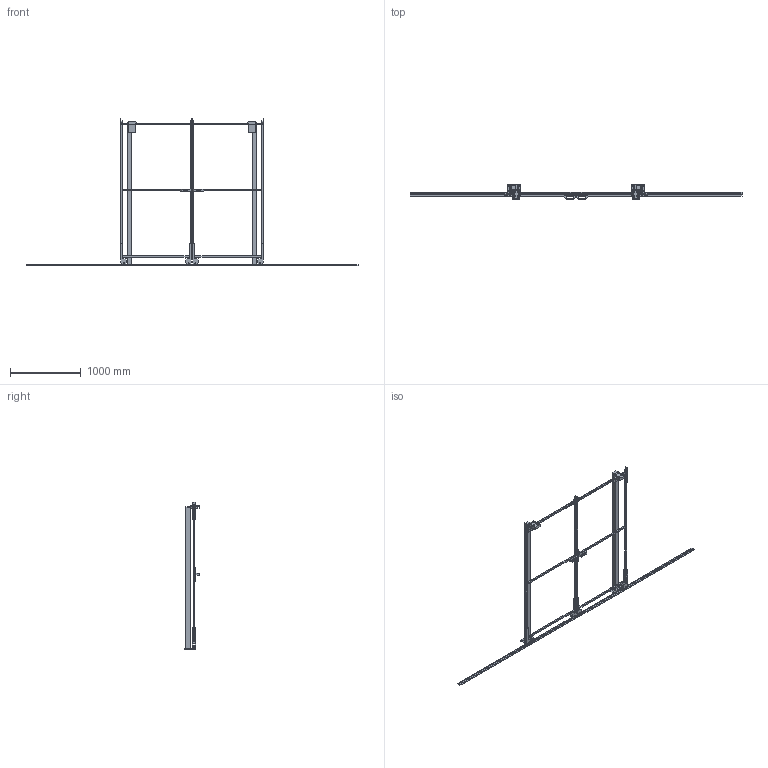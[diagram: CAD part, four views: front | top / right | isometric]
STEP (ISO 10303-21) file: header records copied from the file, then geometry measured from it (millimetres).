
FILE_DESCRIPTION(/* description */ (''),/* implementation_level */ '2;1');
FILE_NAME(/* name */ 'C:\SafeGuarding\ELABORATI\Drawing4_2025-05-13-13-33-13.stp',/* time_stamp */ '2025-05-13T13:33:15+02:00',/* author */ ('admin'),/* organization */ (''),/* preprocessor_version */ 'ST-DEVELOPER v18.1',/* originating_system */ 'AutoCAD Mechanical',/* authorisation */ '');
FILE_SCHEMA (('AUTOMOTIVE_DESIGN { 1 0 10303 214 3 1 1 }','TECHNICAL_DATA_PACKAGING'));
Length unit declared in the file: millimetre
Products named in the file (3): Product; R_VFPA.REPE20.10001900; P_VFMA.V260SDU.2020
Assembly tree (4 placements, depth 2):
  Product
    R_VFPA.REPE20.10001900  x2
    P_VFMA.V260SDU.2020  x2
Bounding box: 4700 x 211.41 x 2090 mm (x, y, z)
Volume: 23052117.8 mm3; surface area: 3813947.8 mm2
Topology: 54 solids, 76 shells, 524 faces, 1596 edges, 1473 vertices
Faces by surface type: plane 460, cylinder 56, cone 8
Full cylindrical faces by diameter (mm): 9 x8, 11 x8, 13 x8, 14 x4, 18 x8, 30 x4, 36 x8, 58 x8
Entity records: 15756 total; most frequent: CARTESIAN_POINT 3291, DIRECTION 2383, ORIENTED_EDGE 2320, EDGE_CURVE 1258, LINE 1033, VECTOR 1033, VERTEX_POINT 920, AXIS2_PLACEMENT_3D 675
